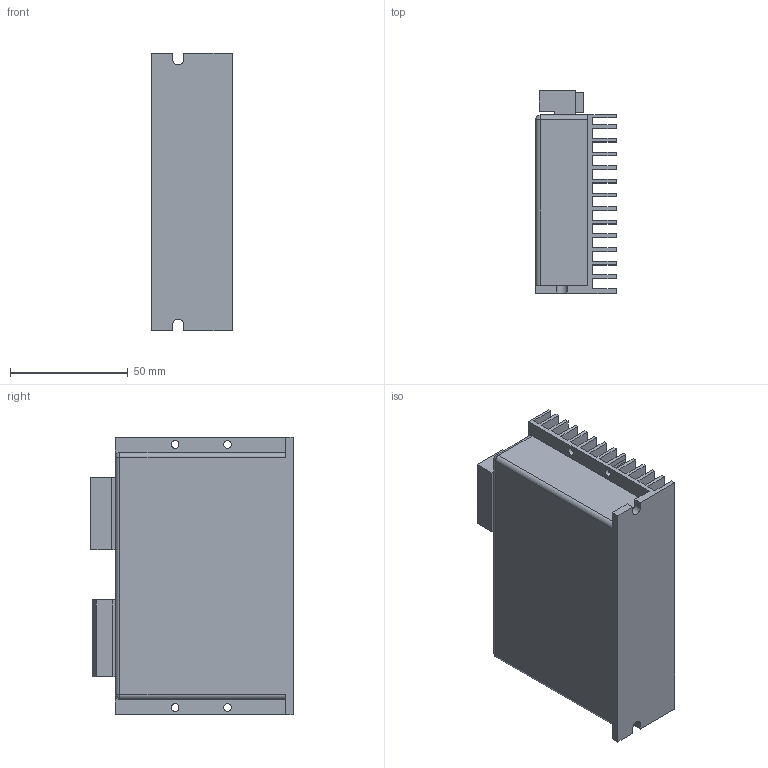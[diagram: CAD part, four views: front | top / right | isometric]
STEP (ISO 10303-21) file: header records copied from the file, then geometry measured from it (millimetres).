
FILE_DESCRIPTION((''),'2;1');
FILE_NAME('S6AP','2024-06-23T17:18:32',('jason'),(''),'CREO PARAMETRIC BY PTC INC, 2022073','CREO PARAMETRIC BY PTC INC, 2022073','');
FILE_SCHEMA(('CONFIG_CONTROL_DESIGN'));
Length unit declared in the file: millimetre
Products named in the file (1): S6AP
Bounding box: 34.3 x 86.11 x 117.8 mm (x, y, z)
Volume: 225130.7 mm3; surface area: 63775.9 mm2
Topology: 1 solids, 1 shells, 120 faces, 342 edges, 226 vertices
Faces by surface type: plane 103, cylinder 15, sphere 2
Entity records: 3906 total; most frequent: CARTESIAN_POINT 688, ORIENTED_EDGE 684, DIRECTION 616, EDGE_CURVE 342, VECTOR 308, LINE 308, VERTEX_POINT 226, AXIS2_PLACEMENT_3D 154
